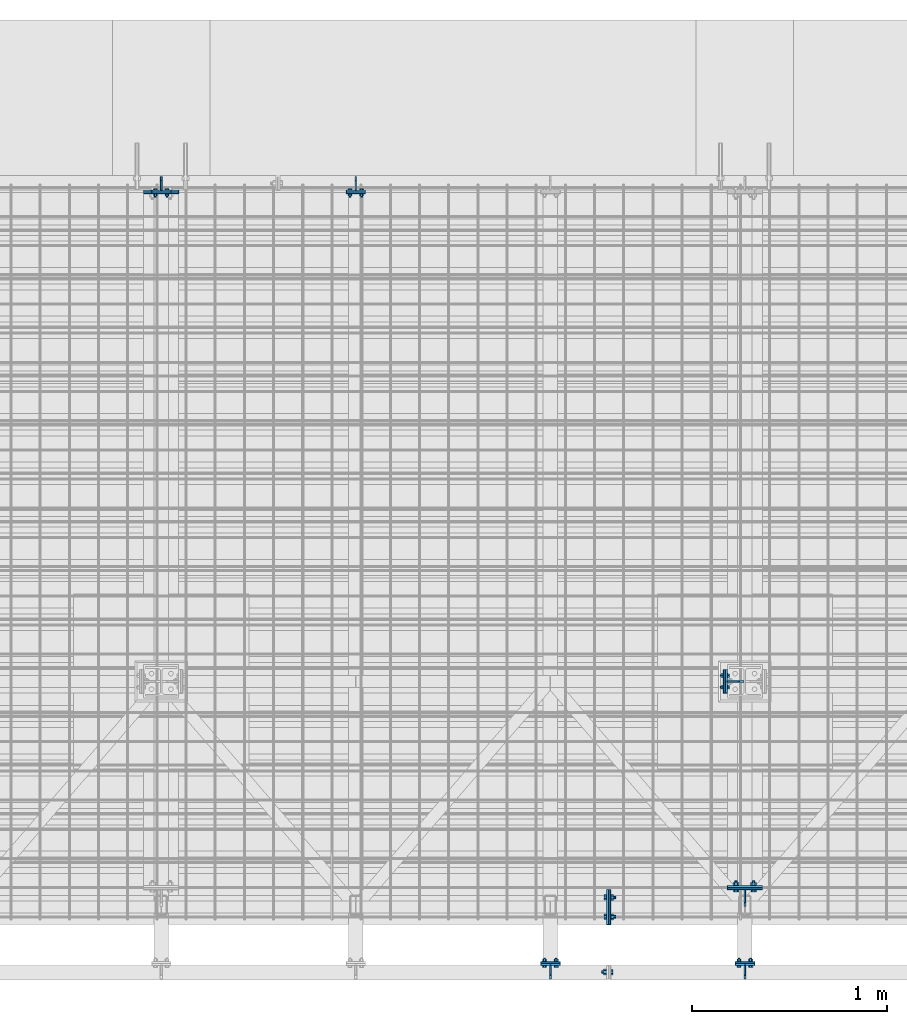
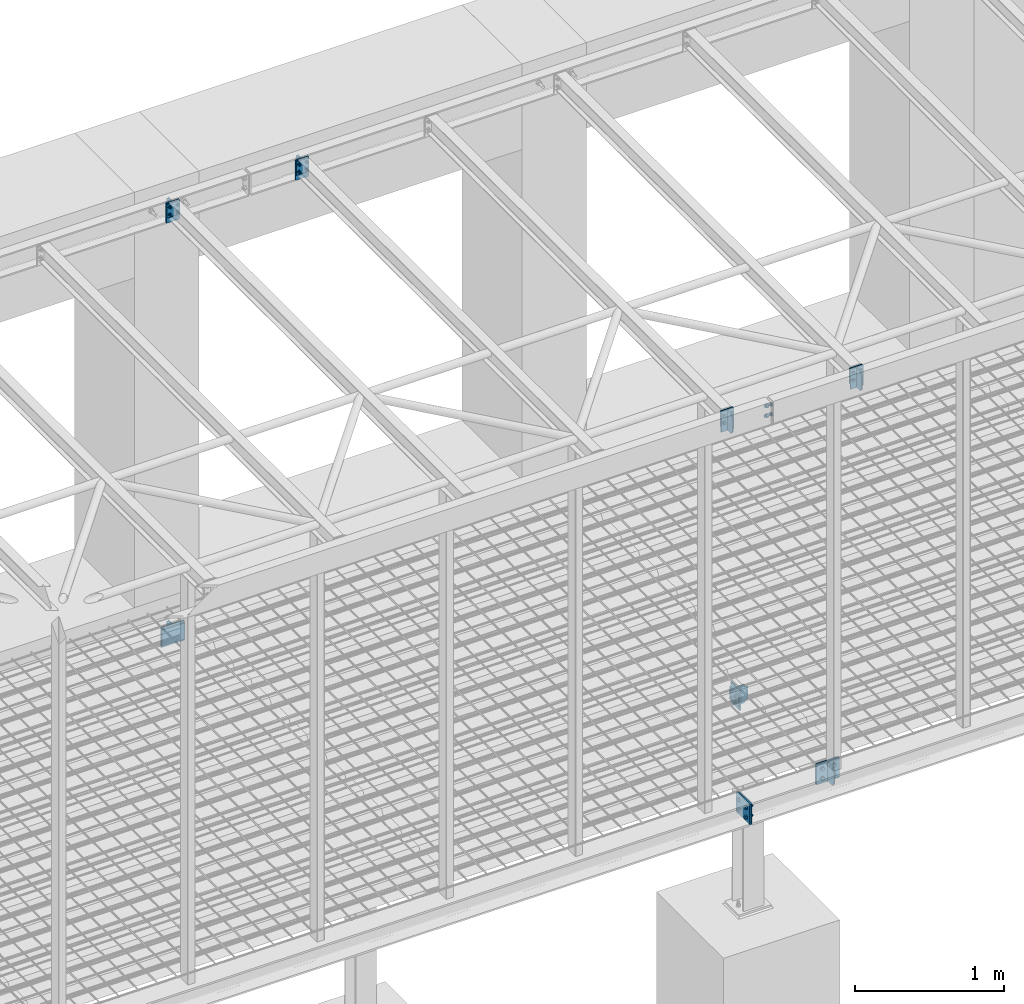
# One storey, part 20 of 26: 23 discrete accessories, 8 mechanical fasteners, 14 elements without a shape of their own.
"""IFC2X3 building model written with IfcOpenShell, lengths in millimetres."""

from ifc_helpers import new_model, si_unit, frame, frame_2d, origin_with_axes, origin_2d_with_axis, place, context, subcontext, project, spatial, polyline, circle_curve, parameter, trimmed, segment, composite_curve, circle, outline, extrude, source, transform, mapped, material, type_object, element, aggregate, save


model = new_model("IFC2X3")

# Units and contexts
model_context = context("Model", 3, precision=1e-05, world=origin_with_axes())
body_context = subcontext(model_context, "Body", "Model", "MODEL_VIEW")
ifc_project = project(units=[si_unit("LENGTHUNIT", "METRE", prefix="MILLI"), si_unit("AREAUNIT", "SQUARE_METRE"), si_unit("VOLUMEUNIT", "CUBIC_METRE"), si_unit("MASSUNIT", "GRAM", prefix="KILO"), si_unit("TIMEUNIT", "SECOND"), si_unit("PLANEANGLEUNIT", "RADIAN"), si_unit("SOLIDANGLEUNIT", "STERADIAN"), si_unit("THERMODYNAMICTEMPERATUREUNIT", "DEGREE_CELSIUS"), si_unit("LUMINOUSINTENSITYUNIT", "LUMEN")], contexts=[model_context])

# Site, building, storey
site_placement = place(None, origin_with_axes())
site = spatial("IfcSite", under=ifc_project, at=site_placement, Name="Undefined", CompositionType="ELEMENT")
building_placement = place(site_placement, origin_with_axes())
building = spatial("IfcBuilding", under=site, at=building_placement, Name="Undefined", CompositionType="ELEMENT")
storey_placement = place(building_placement, origin_with_axes())
storey = spatial("IfcBuildingStorey", under=building, at=storey_placement, Name="Undefined", CompositionType="ELEMENT", Elevation=0.0)

# Assembly, mechanical fastener
assembly_1_placement = place(storey_placement, origin_with_axes())
assembly_1 = element("IfcElementAssembly", 1, at=assembly_1_placement, inside=storey, Name="Steel Assembly", AssemblyPlace="NOTDEFINED", PredefinedType="RIGID_FRAME")
ifc_material_1 = material(Name="Undefined")
discrete_accessory_type_1 = type_object("IfcDiscreteAccessoryType", Name="Bolt assembly")
shared_shape_1 = source(origin_with_axes(), body_context, "Body", "SweptSolid", [
    extrude(circle(Radius=9.0, at=origin_2d_with_axis()), frame((0.0, -0.1, 0.0), z_axis=(0.0, 1.0, 0.0), x_axis=(1.0, 0.0, 0.0)), (0.0, 0.0, 1.0), 10.1),
    extrude(circle(Radius=9.0, at=origin_2d_with_axis()), frame((0.0, -9.9, 0.0), z_axis=(0.0, 1.0, 0.0), x_axis=(1.0, 0.0, 0.0)), (0.0, 0.0, 1.0), 10.0),
    extrude(outline(polyline([(13.85640646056, 0.0), (6.92820323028, 12.0000000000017), (-6.92820323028, 12.0000000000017), (-13.85640646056, 0.0), (-6.92820323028, -12.0000000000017), (6.92820323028, -12.0000000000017), (13.85640646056, 0.0)])), frame((0.0, -23.0, 0.0), z_axis=(0.0, 1.0, 0.0), x_axis=(1.0, 0.0, 0.0)), (0.0, 0.0, 1.0), 10.0),
    extrude(circle(Radius=8.0, at=origin_2d_with_axis()), frame((0.0, -13.0, 0.0), z_axis=(0.0, 1.0, 0.0), x_axis=(1.0, 0.0, 0.0)), (0.0, 0.0, 1.0), 50.0),
    extrude(circle(Radius=15.0, at=origin_2d_with_axis()), frame((0.0, -13.0, 0.0), z_axis=(0.0, 1.0, 0.0), x_axis=(1.0, 0.0, 0.0)), (0.0, 0.0, 1.0), 3.0),
    extrude(circle(Radius=15.0, at=origin_2d_with_axis()), frame((0.0, 10.0, 0.0), z_axis=(0.0, 1.0, 0.0), x_axis=(1.0, 0.0, 0.0)), (0.0, 0.0, 1.0), 3.0),
    extrude(outline(polyline([(15.4441197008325, 0.0), (7.72205985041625, 13.3750000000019), (-7.72205985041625, 13.3750000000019), (-15.4441197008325, 0.0), (-7.72205985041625, -13.3750000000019), (7.72205985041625, -13.3750000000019), (15.4441197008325, 0.0)])), frame((0.0, 13.0, 0.0), z_axis=(0.0, 1.0, 0.0), x_axis=(1.0, 0.0, 0.0)), (0.0, 0.0, 1.0), 13.0),
])
mechanical_fastener_1_placement = place(assembly_1_placement, frame((8350.0, -234.499999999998, 3210.0), z_axis=(0.0, 0.0, 1.0), x_axis=(0.0, 1.0, 0.0)))
mechanical_fastener_1 = element("IfcMechanicalFastener", 2, at=mechanical_fastener_1_placement, type_object=discrete_accessory_type_1, material=ifc_material_1, Name="Bolt assembly", NominalDiameter=16.0, NominalLength=50.0, context=body_context, shape_type="MappedRepresentation", body=[
    mapped(shared_shape_1, transform((0.0, 0.0, -40.0))),
    mapped(shared_shape_1, transform((0.0, 0.0, 40.0))),
])
aggregate(assembly_1, [mechanical_fastener_1])

assembly_2_placement = place(storey_placement, origin_with_axes())
assembly_2 = element("IfcElementAssembly", 3, at=assembly_2_placement, inside=storey, Name="Steel Assembly", AssemblyPlace="NOTDEFINED", PredefinedType="RIGID_FRAME")
mechanical_fastener_2_placement = place(assembly_2_placement, frame((9005.0, 200.0, -250.0), z_axis=(0.0, 0.0, 1.0), x_axis=(1.0, 0.0, 0.0)))
mechanical_fastener_2 = element("IfcMechanicalFastener", 4, at=mechanical_fastener_2_placement, type_object=discrete_accessory_type_1, material=ifc_material_1, Name="Bolt assembly", NominalDiameter=16.0, NominalLength=50.0, context=body_context, shape_type="MappedRepresentation", body=[
    mapped(shared_shape_1, transform((0.0, 0.0, -40.0))),
    mapped(shared_shape_1, transform((90.0, 0.0, -40.0))),
    mapped(shared_shape_1, transform((0.0, 0.0, 40.0))),
    mapped(shared_shape_1, transform((90.0, 0.0, 40.0))),
])

# Assembly, discrete accessory
assembly_3_placement = place(storey_placement, origin_with_axes())
assembly_3 = element("IfcElementAssembly", 5, at=assembly_3_placement, inside=storey, Name="Steel Assembly", AssemblyPlace="NOTDEFINED", PredefinedType="RIGID_FRAME")
ifc_material_2 = material(Name="STEEL/S235JR")
discrete_accessory_type_2 = type_object("IfcDiscreteAccessoryType", Name="PLECH")
discrete_accessory_1_placement = place(assembly_3_placement, frame((8345.0, 190.000000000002, -168.0), z_axis=(1.0, 0.0, 0.0), x_axis=(0.0, -1.0, 0.0)))
discrete_accessory_1 = element("IfcDiscreteAccessory", 6, at=discrete_accessory_1_placement, type_object=discrete_accessory_type_2, material=ifc_material_2, Name="PLECH", ObjectType="PL10*164", context=body_context, shape_type="SweptSolid", body=[
    extrude(outline(polyline([(0.0, 0.0), (180.0, 0.0), (180.0, 164.0), (0.0, 164.0), (0.0, 0.0)])), frame((0.0, 0.0, -5.0), z_axis=(0.0, 0.0, 1.0), x_axis=(1.0, 0.0, 0.0)), (0.0, 0.0, 1.0), 10.0),
])
aggregate(assembly_3, [discrete_accessory_1])

# Discrete accessory
discrete_accessory_2_placement = place(assembly_2_placement, frame((8355.0, 190.000000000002, -168.0), z_axis=(1.0, 0.0, 0.0), x_axis=(0.0, -1.0, 0.0)))
discrete_accessory_2 = element("IfcDiscreteAccessory", 7, at=discrete_accessory_2_placement, type_object=discrete_accessory_type_2, material=ifc_material_2, Name="PLECH", ObjectType="PL10*164", context=body_context, shape_type="SweptSolid", body=[
    extrude(outline(polyline([(0.0, 0.0), (180.0, 0.0), (180.0, 164.0), (0.0, 164.0), (0.0, 0.0)])), frame((0.0, 0.0, -5.0), z_axis=(0.0, 0.0, 1.0), x_axis=(1.0, 0.0, 0.0)), (0.0, 0.0, 1.0), 10.0),
])

# Assembly, discrete accessory
assembly_4_placement = place(storey_placement, origin_with_axes())
assembly_4 = element("IfcElementAssembly", 8, at=assembly_4_placement, inside=storey, Name="Steel Assembly", AssemblyPlace="NOTDEFINED", PredefinedType="RIGID_FRAME")
discrete_accessory_3_placement = place(assembly_4_placement, frame((9050.0, -200.0, 3289.5), z_axis=(1.0, 0.0, 0.0), x_axis=(0.0, -1.0, 0.0)))
discrete_accessory_3 = element("IfcDiscreteAccessory", 9, at=discrete_accessory_3_placement, type_object=discrete_accessory_type_2, material=ifc_material_2, Name="PLECH", ObjectType="PL8*70", context=body_context, shape_type="SweptSolid", body=[
    extrude(outline(composite_curve([segment(polyline([(0.0, 0.0), (49.5, 0.0)]), True, "CONTINUOUS"), segment(trimmed(circle_curve(frame_2d((69.5, 0.0), x_axis=(-1.0, 0.0)), 20.0), [parameter(0.0)], [parameter(4.71238898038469)], False, "PARAMETER"), True, "CONTINUOUS"), segment(polyline([(69.5, 20.0), (69.5, 139.0)]), True, "CONTINUOUS"), segment(trimmed(circle_curve(frame_2d((69.5, 159.0), x_axis=(0.0, -1.0)), 20.0), [parameter(0.0)], [parameter(4.71238898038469)], False, "PARAMETER"), True, "CONTINUOUS"), segment(polyline([(49.5, 159.0), (-3.63797880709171e-12, 159.0), (0.0, 0.0)]), True, "DISCONTINUOUS")], self_intersect=False)), frame((0.0, 0.0, -4.0), z_axis=(0.0, 0.0, 1.0), x_axis=(1.0, 0.0, 0.0)), (0.0, 0.0, 1.0), 8.0),
])

assembly_5_placement = place(storey_placement, origin_with_axes())
assembly_5 = element("IfcElementAssembly", 10, at=assembly_5_placement, inside=storey, Name="Steel Assembly", AssemblyPlace="NOTDEFINED", PredefinedType="RIGID_FRAME")
discrete_accessory_4_placement = place(assembly_5_placement, frame((9000.0, -185.0, 3166.5), z_axis=(0.0, 1.0, 0.0), x_axis=(0.0, 0.0, 1.0)))
discrete_accessory_4 = element("IfcDiscreteAccessory", 11, at=discrete_accessory_4_placement, type_object=discrete_accessory_type_2, material=ifc_material_2, Name="PLECH", ObjectType="PL10*100", context=body_context, shape_type="SweptSolid", body=[
    extrude(outline(polyline([(0.0, 0.0), (127.0, 0.0), (127.0, 100.0), (-9.09494701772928e-13, 100.0), (0.0, 0.0)])), frame((0.0, 0.0, -5.0), z_axis=(0.0, 0.0, 1.0), x_axis=(1.0, 0.0, 0.0)), (0.0, 0.0, 1.0), 10.0),
])
aggregate(assembly_5, [discrete_accessory_4])

# Discrete accessory
discrete_accessory_5_placement = place(assembly_4_placement, frame((9000.0, -195.0, 3127.5), z_axis=(0.0, 1.0, 0.0), x_axis=(0.0, 0.0, 1.0)))
discrete_accessory_5 = element("IfcDiscreteAccessory", 12, at=discrete_accessory_5_placement, type_object=discrete_accessory_type_2, material=ifc_material_2, Name="PLECH", ObjectType="PL10*100", context=body_context, shape_type="SweptSolid", body=[
    extrude(outline(polyline([(0.0, 0.0), (166.000015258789, 0.0), (166.000015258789, 100.0), (-9.09494701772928e-13, 100.0), (0.0, 0.0)])), frame((0.0, 0.0, -5.0), z_axis=(0.0, 0.0, 1.0), x_axis=(1.0, 0.0, 0.0)), (0.0, 0.0, 1.0), 10.0),
])

discrete_accessory_6_placement = place(assembly_4_placement, frame((8050.0, -200.0, 3289.5), z_axis=(1.0, 0.0, 0.0), x_axis=(0.0, -1.0, 0.0)))
discrete_accessory_6 = element("IfcDiscreteAccessory", 13, at=discrete_accessory_6_placement, type_object=discrete_accessory_type_2, material=ifc_material_2, Name="PLECH", ObjectType="PL8*70", context=body_context, shape_type="SweptSolid", body=[
    extrude(outline(composite_curve([segment(polyline([(0.0, 0.0), (49.5, 0.0)]), True, "CONTINUOUS"), segment(trimmed(circle_curve(frame_2d((69.5, 0.0), x_axis=(-1.0, 0.0)), 20.0), [parameter(0.0)], [parameter(4.71238898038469)], False, "PARAMETER"), True, "CONTINUOUS"), segment(polyline([(69.5, 20.0), (69.5, 139.0)]), True, "CONTINUOUS"), segment(trimmed(circle_curve(frame_2d((69.5, 159.0), x_axis=(0.0, -1.0)), 20.0), [parameter(0.0)], [parameter(4.71238898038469)], False, "PARAMETER"), True, "CONTINUOUS"), segment(polyline([(49.5, 159.0), (-3.63797880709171e-12, 159.0), (0.0, 0.0)]), True, "DISCONTINUOUS")], self_intersect=False)), frame((0.0, 0.0, -4.0), z_axis=(0.0, 0.0, 1.0), x_axis=(1.0, 0.0, 0.0)), (0.0, 0.0, 1.0), 8.0),
])

# Assembly, discrete accessory
assembly_6_placement = place(storey_placement, origin_with_axes())
assembly_6 = element("IfcElementAssembly", 14, at=assembly_6_placement, inside=storey, Name="Steel Assembly", AssemblyPlace="NOTDEFINED", PredefinedType="RIGID_FRAME")
discrete_accessory_7_placement = place(assembly_6_placement, frame((8000.0, -185.0, 3166.5), z_axis=(0.0, 1.0, 0.0), x_axis=(0.0, 0.0, 1.0)))
discrete_accessory_7 = element("IfcDiscreteAccessory", 15, at=discrete_accessory_7_placement, type_object=discrete_accessory_type_2, material=ifc_material_2, Name="PLECH", ObjectType="PL10*100", context=body_context, shape_type="SweptSolid", body=[
    extrude(outline(polyline([(0.0, 0.0), (127.0, 0.0), (127.0, 100.0), (-9.09494701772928e-13, 100.0), (0.0, 0.0)])), frame((0.0, 0.0, -5.0), z_axis=(0.0, 0.0, 1.0), x_axis=(1.0, 0.0, 0.0)), (0.0, 0.0, 1.0), 10.0),
])
aggregate(assembly_6, [discrete_accessory_7])

# Discrete accessory
discrete_accessory_8_placement = place(assembly_4_placement, frame((8000.0, -195.0, 3127.5), z_axis=(0.0, 1.0, 0.0), x_axis=(0.0, 0.0, 1.0)))
discrete_accessory_8 = element("IfcDiscreteAccessory", 16, at=discrete_accessory_8_placement, type_object=discrete_accessory_type_2, material=ifc_material_2, Name="PLECH", ObjectType="PL10*100", context=body_context, shape_type="SweptSolid", body=[
    extrude(outline(polyline([(0.0, 0.0), (166.000015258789, 0.0), (166.000015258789, 100.0), (-9.09494701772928e-13, 100.0), (0.0, 0.0)])), frame((0.0, 0.0, -5.0), z_axis=(0.0, 0.0, 1.0), x_axis=(1.0, 0.0, 0.0)), (0.0, 0.0, 1.0), 10.0),
])

discrete_accessory_9_placement = place(assembly_2_placement, frame((8960.0, 195.0, -168.0), z_axis=(0.0, 1.0, 0.0), x_axis=(1.0, 0.0, 0.0)))
discrete_accessory_9 = element("IfcDiscreteAccessory", 17, at=discrete_accessory_9_placement, type_object=discrete_accessory_type_2, material=ifc_material_2, Name="PLECH", ObjectType="PL10*164", context=body_context, shape_type="SweptSolid", body=[
    extrude(outline(polyline([(0.0, 0.0), (180.0, 0.0), (180.0, 164.0), (0.0, 164.0), (0.0, 0.0)])), frame((0.0, 0.0, -5.0), z_axis=(0.0, 0.0, 1.0), x_axis=(1.0, 0.0, 0.0)), (0.0, 0.0, 1.0), 10.0),
])

discrete_accessory_10_placement = place(assembly_2_placement, frame((9050.0, 190.0, -174.0), z_axis=(1.0, 0.0, 0.0), x_axis=(0.0, -1.0, 0.0)))
discrete_accessory_10 = element("IfcDiscreteAccessory", 18, at=discrete_accessory_10_placement, type_object=discrete_accessory_type_2, material=ifc_material_2, Name="PLECH", ObjectType="PL8*86", context=body_context, shape_type="SweptSolid", body=[
    extrude(outline(composite_curve([segment(polyline([(0.0, 0.0), (65.75, 0.0)]), True, "CONTINUOUS"), segment(trimmed(circle_curve(frame_2d((85.75, 0.0), x_axis=(-1.0, 0.0)), 20.0), [parameter(0.0)], [parameter(4.71238898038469)], False, "PARAMETER"), True, "CONTINUOUS"), segment(polyline([(85.75, 20.0), (85.75, 132.0)]), True, "CONTINUOUS"), segment(trimmed(circle_curve(frame_2d((85.75, 152.0), x_axis=(0.0, -1.0)), 20.0), [parameter(0.0)], [parameter(4.71238898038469)], False, "PARAMETER"), True, "CONTINUOUS"), segment(polyline([(65.75, 152.0), (0.0, 152.0), (0.0, 0.0)]), True, "DISCONTINUOUS")], self_intersect=False)), frame((0.0, 0.0, -4.0), z_axis=(0.0, 0.0, 1.0), x_axis=(1.0, 0.0, 0.0)), (0.0, 0.0, 1.0), 8.0),
])

# Assembly, discrete accessories
assembly_7_placement = place(storey_placement, origin_with_axes())
assembly_7 = element("IfcElementAssembly", 19, at=assembly_7_placement, inside=storey, Name="Steel Assembly", AssemblyPlace="NOTDEFINED", PredefinedType="RIGID_FRAME")
discrete_accessory_11_placement = place(assembly_7_placement, frame((8960.0, 205.0, -168.0), z_axis=(0.0, 1.0, 0.0), x_axis=(1.0, 0.0, 0.0)))
discrete_accessory_11 = element("IfcDiscreteAccessory", 20, at=discrete_accessory_11_placement, type_object=discrete_accessory_type_2, material=ifc_material_2, Name="PLECH", ObjectType="PL10*164", context=body_context, shape_type="SweptSolid", body=[
    extrude(outline(polyline([(0.0, 0.0), (180.0, 0.0), (180.0, 164.0), (0.0, 164.0), (0.0, 0.0)])), frame((0.0, 0.0, -5.0), z_axis=(0.0, 0.0, 1.0), x_axis=(1.0, 0.0, 0.0)), (0.0, 0.0, 1.0), 10.0),
])
discrete_accessory_12_placement = place(assembly_7_placement, frame((8960.0, 1260.0, -174.0), z_axis=(0.0, 1.0, 0.0), x_axis=(1.0, 0.0, 0.0)))
discrete_accessory_12 = element("IfcDiscreteAccessory", 21, at=discrete_accessory_12_placement, type_object=discrete_accessory_type_2, material=ifc_material_2, Name="PLECH", ObjectType="PL8*86", context=body_context, shape_type="SweptSolid", body=[
    extrude(outline(composite_curve([segment(polyline([(0.0, 0.0), (60.5, 0.0)]), True, "CONTINUOUS"), segment(trimmed(circle_curve(frame_2d((85.5, 0.0), x_axis=(-1.0, 0.0)), 25.0), [parameter(0.0)], [parameter(4.71238898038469)], False, "PARAMETER"), True, "CONTINUOUS"), segment(polyline([(85.5, 25.0), (85.5, 127.0)]), True, "CONTINUOUS"), segment(trimmed(circle_curve(frame_2d((85.5, 152.0), x_axis=(0.0, -1.0)), 25.0), [parameter(0.0)], [parameter(4.71238898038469)], False, "PARAMETER"), True, "CONTINUOUS"), segment(polyline([(60.5, 152.0), (0.0, 152.0), (0.0, 0.0)]), True, "DISCONTINUOUS")], self_intersect=False)), frame((0.0, 0.0, -4.0), z_axis=(0.0, 0.0, 1.0), x_axis=(1.0, 0.0, 0.0)), (0.0, 0.0, 1.0), 8.0),
])

# Assembly, discrete accessory
assembly_8_placement = place(storey_placement, origin_with_axes())
assembly_8 = element("IfcElementAssembly", 22, at=assembly_8_placement, inside=storey, Name="Steel Assembly", AssemblyPlace="NOTDEFINED", PredefinedType="RIGID_FRAME")
discrete_accessory_13_placement = place(assembly_8_placement, frame((8945.0, 1200.0, -299.0), z_axis=(-1.0, 0.0, 0.0), x_axis=(0.0, 0.0, 1.0)))
discrete_accessory_13 = element("IfcDiscreteAccessory", 23, at=discrete_accessory_13_placement, type_object=discrete_accessory_type_2, material=ifc_material_2, Name="PLECH", ObjectType="PL10*98", context=body_context, shape_type="SweptSolid", body=[
    extrude(outline(polyline([(0.0, 0.0), (98.0, 4.54747350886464e-13), (98.0, 120.0), (0.0, 120.0), (0.0, 0.0)])), frame((0.0, 0.0, -5.0), z_axis=(0.0, 0.0, 1.0), x_axis=(1.0, 0.0, 0.0)), (0.0, 0.0, 1.0), 10.0),
])
aggregate(assembly_8, [discrete_accessory_13])

# Discrete accessory
discrete_accessory_14_placement = place(assembly_7_placement, frame((8955.0, 1200.0, -332.0), z_axis=(-1.0, 0.0, 0.0), x_axis=(0.0, 0.0, 1.0)))
discrete_accessory_14 = element("IfcDiscreteAccessory", 24, at=discrete_accessory_14_placement, type_object=discrete_accessory_type_2, material=ifc_material_2, Name="PLECH", ObjectType="PL10*120", context=body_context, shape_type="SweptSolid", body=[
    extrude(outline(polyline([(0.0, 0.0), (164.0, 4.54747350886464e-13), (164.0, 120.0), (0.0, 120.0), (0.0, 0.0)])), frame((0.0, 0.0, -5.0), z_axis=(0.0, 0.0, 1.0), x_axis=(1.0, 0.0, 0.0)), (0.0, 0.0, 1.0), 10.0),
])

# Assembly, discrete accessories
assembly_9_placement = place(storey_placement, origin_with_axes())
assembly_9 = element("IfcElementAssembly", 25, at=assembly_9_placement, inside=storey, Name="Steel Assembly", AssemblyPlace="NOTDEFINED", PredefinedType="RIGID_FRAME")
discrete_accessory_15_placement = place(assembly_9_placement, frame((5960.0, 3780.0, -168.0), z_axis=(0.0, 1.0, 0.0), x_axis=(1.0, 0.0, 0.0)))
discrete_accessory_15 = element("IfcDiscreteAccessory", 26, at=discrete_accessory_15_placement, type_object=discrete_accessory_type_2, material=ifc_material_2, Name="PLECH", ObjectType="PL10*164", context=body_context, shape_type="SweptSolid", body=[
    extrude(outline(polyline([(0.0, 0.0), (180.0, 0.0), (180.0, 164.0), (0.0, 164.0), (0.0, 0.0)])), frame((0.0, 0.0, -5.0), z_axis=(0.0, 0.0, 1.0), x_axis=(1.0, 0.0, 0.0)), (0.0, 0.0, 1.0), 10.0),
])
discrete_accessory_16_placement = place(assembly_9_placement, frame((6050.0, 3785.0, -170.5), z_axis=(-1.0, 0.0, 0.0), x_axis=(0.0, 1.0, 0.0)))
discrete_accessory_16 = element("IfcDiscreteAccessory", 27, at=discrete_accessory_16_placement, type_object=discrete_accessory_type_2, material=ifc_material_2, Name="PLECH", ObjectType="PL8*70", context=body_context, shape_type="SweptSolid", body=[
    extrude(outline(composite_curve([segment(polyline([(0.0, 0.0), (49.5, 0.0)]), True, "CONTINUOUS"), segment(trimmed(circle_curve(frame_2d((69.5, 0.0), x_axis=(-1.0, 0.0)), 20.0), [parameter(0.0)], [parameter(4.71238898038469)], False, "PARAMETER"), True, "CONTINUOUS"), segment(polyline([(69.5, 20.0), (69.5, 139.0)]), True, "CONTINUOUS"), segment(trimmed(circle_curve(frame_2d((69.5, 159.0), x_axis=(0.0, -1.0)), 20.0), [parameter(0.0)], [parameter(4.71238898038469)], False, "PARAMETER"), True, "CONTINUOUS"), segment(polyline([(49.5, 159.0), (-3.63797880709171e-12, 159.0), (0.0, 0.0)]), True, "DISCONTINUOUS")], self_intersect=False)), frame((0.0, 0.0, -4.0), z_axis=(0.0, 0.0, 1.0), x_axis=(1.0, 0.0, 0.0)), (0.0, 0.0, 1.0), 8.0),
])
aggregate(assembly_9, [discrete_accessory_15, discrete_accessory_16])

# Assembly, discrete accessory
assembly_10_placement = place(storey_placement, origin_with_axes())
assembly_10 = element("IfcElementAssembly", 28, at=assembly_10_placement, inside=storey, Name="Steel Assembly", AssemblyPlace="NOTDEFINED", PredefinedType="RIGID_FRAME")
discrete_accessory_17_placement = place(assembly_10_placement, frame((5960.0, 3771.0, -184.0), z_axis=(0.0, 1.0, 0.0), x_axis=(1.0, 0.0, 0.0)))
discrete_accessory_17 = element("IfcDiscreteAccessory", 29, at=discrete_accessory_17_placement, type_object=discrete_accessory_type_2, material=ifc_material_2, Name="PLECH", ObjectType="PL8*132", context=body_context, shape_type="SweptSolid", body=[
    extrude(outline(polyline([(0.0, 0.0), (180.0, 0.0), (180.0, 132.0), (0.0, 132.0), (0.0, 0.0)])), frame((0.0, 0.0, -4.0), z_axis=(0.0, 0.0, 1.0), x_axis=(1.0, 0.0, 0.0)), (0.0, 0.0, 1.0), 8.0),
])
aggregate(assembly_10, [discrete_accessory_17])

assembly_11_placement = place(storey_placement, origin_with_axes())
assembly_11 = element("IfcElementAssembly", 30, at=assembly_11_placement, inside=storey, Name="Steel Assembly", AssemblyPlace="NOTDEFINED", PredefinedType="RIGID_FRAME")
discrete_accessory_18_placement = place(assembly_11_placement, frame((7050.0, 3785.0, 3289.5), z_axis=(-1.0, 0.0, 0.0), x_axis=(0.0, 1.0, 0.0)))
discrete_accessory_18 = element("IfcDiscreteAccessory", 31, at=discrete_accessory_18_placement, type_object=discrete_accessory_type_2, material=ifc_material_2, Name="PLECH", ObjectType="PL6*70", context=body_context, shape_type="SweptSolid", body=[
    extrude(outline(composite_curve([segment(polyline([(0.0, 0.0), (49.5, 0.0)]), True, "CONTINUOUS"), segment(trimmed(circle_curve(frame_2d((69.5, 0.0), x_axis=(-1.0, 0.0)), 20.0), [parameter(0.0)], [parameter(4.71238898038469)], False, "PARAMETER"), True, "CONTINUOUS"), segment(polyline([(69.5, 20.0), (69.5, 139.0)]), True, "CONTINUOUS"), segment(trimmed(circle_curve(frame_2d((69.5, 159.0), x_axis=(0.0, -1.0)), 20.0), [parameter(0.0)], [parameter(4.71238898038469)], False, "PARAMETER"), True, "CONTINUOUS"), segment(polyline([(49.5, 159.0), (-3.63797880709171e-12, 159.0), (0.0, 0.0)]), True, "DISCONTINUOUS")], self_intersect=False)), frame((0.0, 0.0, -3.0), z_axis=(0.0, 0.0, 1.0), x_axis=(1.0, 0.0, 0.0)), (0.0, 0.0, 1.0), 6.0),
])

assembly_12_placement = place(storey_placement, origin_with_axes())
assembly_12 = element("IfcElementAssembly", 32, at=assembly_12_placement, inside=storey, Name="Steel Assembly", AssemblyPlace="NOTDEFINED", PredefinedType="RIGID_FRAME")
discrete_accessory_19_placement = place(assembly_12_placement, frame((7000.0, 3771.0, 3175.0), z_axis=(0.0, 1.0, 0.0), x_axis=(0.0, 0.0, 1.0)))
discrete_accessory_19 = element("IfcDiscreteAccessory", 33, at=discrete_accessory_19_placement, type_object=discrete_accessory_type_2, material=ifc_material_2, Name="PLECH", ObjectType="PL8*100", context=body_context, shape_type="SweptSolid", body=[
    extrude(outline(polyline([(0.0, 0.0), (110.0, 0.0), (110.0, 100.0), (-9.09494701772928e-13, 100.0), (0.0, 0.0)])), frame((0.0, 0.0, -4.0), z_axis=(0.0, 0.0, 1.0), x_axis=(1.0, 0.0, 0.0)), (0.0, 0.0, 1.0), 8.0),
])
aggregate(assembly_12, [discrete_accessory_19])

# Discrete accessory
discrete_accessory_20_placement = place(assembly_11_placement, frame((7000.0, 3780.0, 3128.0), z_axis=(0.0, 1.0, 0.0), x_axis=(0.0, 0.0, 1.0)))
discrete_accessory_20 = element("IfcDiscreteAccessory", 34, at=discrete_accessory_20_placement, type_object=discrete_accessory_type_2, material=ifc_material_2, Name="PLECH", ObjectType="PL10*100", context=body_context, shape_type="SweptSolid", body=[
    extrude(outline(polyline([(0.0, 0.0), (164.0, 4.54747350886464e-13), (164.0, 100.0), (-9.09494701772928e-13, 100.0), (0.0, 0.0)])), frame((0.0, 0.0, -5.0), z_axis=(0.0, 0.0, 1.0), x_axis=(1.0, 0.0, 0.0)), (0.0, 0.0, 1.0), 10.0),
])

# Assembly, discrete accessory
assembly_13_placement = place(storey_placement, origin_with_axes())
assembly_13 = element("IfcElementAssembly", 35, at=assembly_13_placement, inside=storey, Name="Steel Assembly", AssemblyPlace="NOTDEFINED", PredefinedType="RIGID_FRAME")
discrete_accessory_21_placement = place(assembly_13_placement, frame((6050.0, 3785.0, 3289.5), z_axis=(-1.0, 0.0, 0.0), x_axis=(0.0, 1.0, 0.0)))
discrete_accessory_21 = element("IfcDiscreteAccessory", 36, at=discrete_accessory_21_placement, type_object=discrete_accessory_type_2, material=ifc_material_2, Name="PLECH", ObjectType="PL6*70", context=body_context, shape_type="SweptSolid", body=[
    extrude(outline(composite_curve([segment(polyline([(0.0, 0.0), (49.5, 0.0)]), True, "CONTINUOUS"), segment(trimmed(circle_curve(frame_2d((69.5, 0.0), x_axis=(-1.0, 0.0)), 20.0), [parameter(0.0)], [parameter(4.71238898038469)], False, "PARAMETER"), True, "CONTINUOUS"), segment(polyline([(69.5, 20.0), (69.5, 139.0)]), True, "CONTINUOUS"), segment(trimmed(circle_curve(frame_2d((69.5, 159.0), x_axis=(0.0, -1.0)), 20.0), [parameter(0.0)], [parameter(4.71238898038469)], False, "PARAMETER"), True, "CONTINUOUS"), segment(polyline([(49.5, 159.0), (-3.63797880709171e-12, 159.0), (0.0, 0.0)]), True, "DISCONTINUOUS")], self_intersect=False)), frame((0.0, 0.0, -3.0), z_axis=(0.0, 0.0, 1.0), x_axis=(1.0, 0.0, 0.0)), (0.0, 0.0, 1.0), 6.0),
])

assembly_14_placement = place(storey_placement, origin_with_axes())
assembly_14 = element("IfcElementAssembly", 37, at=assembly_14_placement, inside=storey, Name="Steel Assembly", AssemblyPlace="NOTDEFINED", PredefinedType="RIGID_FRAME")
discrete_accessory_22_placement = place(assembly_14_placement, frame((6000.0, 3771.0, 3175.0), z_axis=(0.0, 1.0, 0.0), x_axis=(0.0, 0.0, 1.0)))
discrete_accessory_22 = element("IfcDiscreteAccessory", 38, at=discrete_accessory_22_placement, type_object=discrete_accessory_type_2, material=ifc_material_2, Name="PLECH", ObjectType="PL8*100", context=body_context, shape_type="SweptSolid", body=[
    extrude(outline(polyline([(0.0, 0.0), (110.0, 0.0), (110.0, 100.0), (-9.09494701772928e-13, 100.0), (0.0, 0.0)])), frame((0.0, 0.0, -4.0), z_axis=(0.0, 0.0, 1.0), x_axis=(1.0, 0.0, 0.0)), (0.0, 0.0, 1.0), 8.0),
])
aggregate(assembly_14, [discrete_accessory_22])

# Discrete accessory
discrete_accessory_23_placement = place(assembly_13_placement, frame((6000.0, 3780.0, 3128.0), z_axis=(0.0, 1.0, 0.0), x_axis=(0.0, 0.0, 1.0)))
discrete_accessory_23 = element("IfcDiscreteAccessory", 39, at=discrete_accessory_23_placement, type_object=discrete_accessory_type_2, material=ifc_material_2, Name="PLECH", ObjectType="PL10*100", context=body_context, shape_type="SweptSolid", body=[
    extrude(outline(polyline([(0.0, 0.0), (164.0, 4.54747350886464e-13), (164.0, 100.0), (-9.09494701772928e-13, 100.0), (0.0, 0.0)])), frame((0.0, 0.0, -5.0), z_axis=(0.0, 0.0, 1.0), x_axis=(1.0, 0.0, 0.0)), (0.0, 0.0, 1.0), 10.0),
])

# Mechanical fastener
shared_shape_2 = source(origin_with_axes(), body_context, "Body", "SweptSolid", [
    extrude(circle(Radius=9.0, at=origin_2d_with_axis()), frame((0.0, -9.9, 0.0), z_axis=(0.0, 1.0, 0.0), x_axis=(1.0, 0.0, 0.0)), (0.0, 0.0, 1.0), 10.0),
    extrude(circle(Radius=9.0, at=origin_2d_with_axis()), frame((0.0, -0.1, 0.0), z_axis=(0.0, 1.0, 0.0), x_axis=(1.0, 0.0, 0.0)), (0.0, 0.0, 1.0), 10.1),
    extrude(outline(polyline([(13.85640646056, 0.0), (6.92820323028, 12.0000000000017), (-6.92820323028, 12.0000000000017), (-13.85640646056, 0.0), (-6.92820323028, -12.0000000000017), (6.92820323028, -12.0000000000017), (13.85640646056, 0.0)])), frame((0.0, -23.0, 0.0), z_axis=(0.0, 1.0, 0.0), x_axis=(1.0, 0.0, 0.0)), (0.0, 0.0, 1.0), 10.0),
    extrude(circle(Radius=8.0, at=origin_2d_with_axis()), frame((0.0, -13.0, 0.0), z_axis=(0.0, 1.0, 0.0), x_axis=(1.0, 0.0, 0.0)), (0.0, 0.0, 1.0), 50.0),
    extrude(circle(Radius=15.0, at=origin_2d_with_axis()), frame((0.0, -13.0, 0.0), z_axis=(0.0, 1.0, 0.0), x_axis=(1.0, 0.0, 0.0)), (0.0, 0.0, 1.0), 3.0),
    extrude(circle(Radius=15.0, at=origin_2d_with_axis()), frame((0.0, 10.0, 0.0), z_axis=(0.0, 1.0, 0.0), x_axis=(1.0, 0.0, 0.0)), (0.0, 0.0, 1.0), 3.0),
    extrude(outline(polyline([(15.4441197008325, 0.0), (7.72205985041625, 13.3750000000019), (-7.72205985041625, 13.3750000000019), (-15.4441197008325, 0.0), (-7.72205985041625, -13.3750000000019), (7.72205985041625, -13.3750000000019), (15.4441197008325, 0.0)])), frame((0.0, 13.0, 0.0), z_axis=(0.0, 1.0, 0.0), x_axis=(1.0, 0.0, 0.0)), (0.0, 0.0, 1.0), 13.0),
])
mechanical_fastener_3_placement = place(assembly_2_placement, frame((8350.0, 150.0, -250.0), z_axis=(0.0, 0.0, 1.0), x_axis=(0.0, -1.0, 0.0)))
mechanical_fastener_3 = element("IfcMechanicalFastener", 40, at=mechanical_fastener_3_placement, type_object=discrete_accessory_type_1, material=ifc_material_1, Name="Bolt assembly", NominalDiameter=16.0, NominalLength=50.0, context=body_context, shape_type="MappedRepresentation", body=[
    mapped(shared_shape_2, transform((0.0, 0.0, -40.0))),
    mapped(shared_shape_2, transform((100.0, 0.0, -40.0))),
    mapped(shared_shape_2, transform((0.0, 0.0, 40.0))),
    mapped(shared_shape_2, transform((100.0, 0.0, 40.0))),
])

aggregate(assembly_2, [mechanical_fastener_3, discrete_accessory_2, mechanical_fastener_2, discrete_accessory_9, discrete_accessory_10])

shared_shape_3 = source(origin_with_axes(), body_context, "Body", "SweptSolid", [
    extrude(circle(Radius=6.5, at=origin_2d_with_axis()), frame((0.0, -0.1, 0.0), z_axis=(0.0, 1.0, 0.0), x_axis=(1.0, 0.0, 0.0)), (0.0, 0.0, 1.0), 10.1),
    extrude(circle(Radius=6.5, at=origin_2d_with_axis()), frame((0.0, -9.9, 0.0), z_axis=(0.0, 1.0, 0.0), x_axis=(1.0, 0.0, 0.0)), (0.0, 0.0, 1.0), 10.0),
    extrude(outline(polyline([(10.96965511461, 0.0), (5.484827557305, 9.50000000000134), (-5.484827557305, 9.50000000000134), (-10.96965511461, 0.0), (-5.484827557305, -9.50000000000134), (5.484827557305, -9.50000000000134), (10.96965511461, 0.0)])), frame((0.0, -20.0, 0.0), z_axis=(0.0, 1.0, 0.0), x_axis=(1.0, 0.0, 0.0)), (0.0, 0.0, 1.0), 7.5),
    extrude(circle(Radius=6.0, at=origin_2d_with_axis()), frame((0.0, -12.5, 0.0), z_axis=(0.0, 1.0, 0.0), x_axis=(1.0, 0.0, 0.0)), (0.0, 0.0, 1.0), 40.0),
    extrude(circle(Radius=12.0, at=origin_2d_with_axis()), frame((0.0, -12.5, 0.0), z_axis=(0.0, 1.0, 0.0), x_axis=(1.0, 0.0, 0.0)), (0.0, 0.0, 1.0), 2.5),
    extrude(circle(Radius=12.0, at=origin_2d_with_axis()), frame((0.0, 10.0, 0.0), z_axis=(0.0, 1.0, 0.0), x_axis=(1.0, 0.0, 0.0)), (0.0, 0.0, 1.0), 2.5),
    extrude(outline(polyline([(10.96965511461, 0.0), (5.484827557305, 9.50000000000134), (-5.484827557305, 9.50000000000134), (-10.96965511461, 0.0), (-5.484827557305, -9.50000000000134), (5.484827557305, -9.50000000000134), (10.96965511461, 0.0)])), frame((0.0, 12.5, 0.0), z_axis=(0.0, 1.0, 0.0), x_axis=(1.0, 0.0, 0.0)), (0.0, 0.0, 1.0), 10.0),
])
mechanical_fastener_4_placement = place(assembly_4_placement, frame((9020.0, -190.0, 3230.0), z_axis=(0.0, 0.0, 1.0), x_axis=(1.0, 0.0, 0.0)))
mechanical_fastener_4 = element("IfcMechanicalFastener", 41, at=mechanical_fastener_4_placement, type_object=discrete_accessory_type_1, material=ifc_material_1, Name="Bolt assembly", NominalDiameter=12.0, NominalLength=40.0, context=body_context, shape_type="MappedRepresentation", body=[
    mapped(shared_shape_3, transform((0.0, 0.0, 30.0))),
    mapped(shared_shape_3, transform((60.0, 0.0, 30.0))),
    mapped(shared_shape_3, transform((0.0, 0.0, -30.0))),
    mapped(shared_shape_3, transform((60.0, 0.0, -30.0))),
])

mechanical_fastener_5_placement = place(assembly_4_placement, frame((8020.0, -190.0, 3230.0), z_axis=(0.0, 0.0, 1.0), x_axis=(1.0, 0.0, 0.0)))
mechanical_fastener_5 = element("IfcMechanicalFastener", 42, at=mechanical_fastener_5_placement, type_object=discrete_accessory_type_1, material=ifc_material_1, Name="Bolt assembly", NominalDiameter=12.0, NominalLength=40.0, context=body_context, shape_type="MappedRepresentation", body=[
    mapped(shared_shape_3, transform((0.0, 0.0, 30.0))),
    mapped(shared_shape_3, transform((60.0, 0.0, 30.0))),
    mapped(shared_shape_3, transform((0.0, 0.0, -30.0))),
    mapped(shared_shape_3, transform((60.0, 0.0, -30.0))),
])

aggregate(assembly_4, [mechanical_fastener_4, discrete_accessory_3, discrete_accessory_5, mechanical_fastener_5, discrete_accessory_6, discrete_accessory_8])

shared_shape_4 = source(origin_with_axes(), body_context, "Body", "SweptSolid", [
    extrude(circle(Radius=6.5, at=origin_2d_with_axis()), frame((0.0, -4.1, 0.0), z_axis=(0.0, 1.0, 0.0), x_axis=(1.0, 0.0, 0.0)), (0.0, 0.0, 1.0), 10.1),
    extrude(circle(Radius=6.5, at=origin_2d_with_axis()), frame((0.0, -13.9, 0.0), z_axis=(0.0, 1.0, 0.0), x_axis=(1.0, 0.0, 0.0)), (0.0, 0.0, 1.0), 10.0),
    extrude(outline(polyline([(10.39230484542, 0.0), (5.19615242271, 9.00000000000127), (-5.19615242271, 9.00000000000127), (-10.39230484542, 0.0), (-5.19615242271, -9.00000000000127), (5.19615242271, -9.00000000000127), (10.39230484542, 0.0)])), frame((0.0, -24.0, 0.0), z_axis=(0.0, 1.0, 0.0), x_axis=(1.0, 0.0, 0.0)), (0.0, 0.0, 1.0), 7.5),
    extrude(circle(Radius=6.0, at=origin_2d_with_axis()), frame((0.0, -16.5, 0.0), z_axis=(0.0, 1.0, 0.0), x_axis=(1.0, 0.0, 0.0)), (0.0, 0.0, 1.0), 40.0),
    extrude(circle(Radius=12.0, at=origin_2d_with_axis()), frame((0.0, -16.5, 0.0), z_axis=(0.0, 1.0, 0.0), x_axis=(1.0, 0.0, 0.0)), (0.0, 0.0, 1.0), 2.5),
    extrude(circle(Radius=12.0, at=origin_2d_with_axis()), frame((0.0, 6.0, 0.0), z_axis=(0.0, 1.0, 0.0), x_axis=(1.0, 0.0, 0.0)), (0.0, 0.0, 1.0), 2.5),
    extrude(outline(polyline([(10.96965511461, 0.0), (5.484827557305, 9.50000000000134), (-5.484827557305, 9.50000000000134), (-10.96965511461, 0.0), (-5.484827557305, -9.50000000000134), (5.484827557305, -9.50000000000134), (10.96965511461, 0.0)])), frame((0.0, 8.5, 0.0), z_axis=(0.0, 1.0, 0.0), x_axis=(1.0, 0.0, 0.0)), (0.0, 0.0, 1.0), 10.0),
])
mechanical_fastener_6_placement = place(assembly_7_placement, frame((8946.0, 1260.0, -225.0), z_axis=(0.0, 1.0, 0.0), x_axis=(0.0, 0.0, -1.0)))
mechanical_fastener_6 = element("IfcMechanicalFastener", 43, at=mechanical_fastener_6_placement, type_object=discrete_accessory_type_1, material=ifc_material_1, Name="Bolt assembly", NominalDiameter=12.0, NominalLength=40.0, context=body_context, shape_type="MappedRepresentation", body=[
    mapped(shared_shape_4, transform((0.0, 0.0, -30.0))),
    mapped(shared_shape_4, transform((50.0, 0.0, -30.0))),
    mapped(shared_shape_4, transform((0.0, 0.0, 30.0))),
    mapped(shared_shape_4, transform((50.0, 0.0, 30.0))),
])

aggregate(assembly_7, [discrete_accessory_11, discrete_accessory_12, mechanical_fastener_6, discrete_accessory_14])

shared_shape_5 = source(origin_with_axes(), body_context, "Body", "SweptSolid", [
    extrude(circle(Radius=6.5, at=origin_2d_with_axis()), frame((0.0, -0.1, 0.0), z_axis=(0.0, 1.0, 0.0), x_axis=(1.0, 0.0, 0.0)), (0.0, 0.0, 1.0), 8.1),
    extrude(circle(Radius=6.5, at=origin_2d_with_axis()), frame((0.0, -9.9, 0.0), z_axis=(0.0, 1.0, 0.0), x_axis=(1.0, 0.0, 0.0)), (0.0, 0.0, 1.0), 10.0),
    extrude(outline(polyline([(10.96965511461, 0.0), (5.484827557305, 9.50000000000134), (-5.484827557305, 9.50000000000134), (-10.96965511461, 0.0), (-5.484827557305, -9.50000000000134), (5.484827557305, -9.50000000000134), (10.96965511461, 0.0)])), frame((0.0, -20.0, 0.0), z_axis=(0.0, 1.0, 0.0), x_axis=(1.0, 0.0, 0.0)), (0.0, 0.0, 1.0), 7.5),
    extrude(circle(Radius=6.0, at=origin_2d_with_axis()), frame((0.0, -12.5, 0.0), z_axis=(0.0, 1.0, 0.0), x_axis=(1.0, 0.0, 0.0)), (0.0, 0.0, 1.0), 40.0),
    extrude(circle(Radius=12.0, at=origin_2d_with_axis()), frame((0.0, -12.5, 0.0), z_axis=(0.0, 1.0, 0.0), x_axis=(1.0, 0.0, 0.0)), (0.0, 0.0, 1.0), 2.5),
    extrude(circle(Radius=12.0, at=origin_2d_with_axis()), frame((0.0, 8.0, 0.0), z_axis=(0.0, 1.0, 0.0), x_axis=(1.0, 0.0, 0.0)), (0.0, 0.0, 1.0), 2.5),
    extrude(outline(polyline([(10.96965511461, 0.0), (5.484827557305, 9.50000000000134), (-5.484827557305, 9.50000000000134), (-10.96965511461, 0.0), (-5.484827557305, -9.50000000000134), (5.484827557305, -9.50000000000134), (10.96965511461, 0.0)])), frame((0.0, 10.5, 0.0), z_axis=(0.0, 1.0, 0.0), x_axis=(1.0, 0.0, 0.0)), (0.0, 0.0, 1.0), 10.0),
])
mechanical_fastener_7_placement = place(assembly_11_placement, frame((7020.0, 3775.0, 3230.0), z_axis=(0.0, 0.0, -1.0), x_axis=(1.0, 0.0, 0.0)))
mechanical_fastener_7 = element("IfcMechanicalFastener", 44, at=mechanical_fastener_7_placement, type_object=discrete_accessory_type_1, material=ifc_material_1, Name="Bolt assembly", NominalDiameter=12.0, NominalLength=40.0, context=body_context, shape_type="MappedRepresentation", body=[
    mapped(shared_shape_5, transform((0.0, 0.0, -30.0))),
    mapped(shared_shape_5, transform((60.0, 0.0, -30.0))),
    mapped(shared_shape_5, transform((0.0, 0.0, 30.0))),
    mapped(shared_shape_5, transform((60.0, 0.0, 30.0))),
])

aggregate(assembly_11, [mechanical_fastener_7, discrete_accessory_18, discrete_accessory_20])

mechanical_fastener_8_placement = place(assembly_13_placement, frame((6020.0, 3775.0, 3230.0), z_axis=(0.0, 0.0, -1.0), x_axis=(1.0, 0.0, 0.0)))
mechanical_fastener_8 = element("IfcMechanicalFastener", 45, at=mechanical_fastener_8_placement, type_object=discrete_accessory_type_1, material=ifc_material_1, Name="Bolt assembly", NominalDiameter=12.0, NominalLength=40.0, context=body_context, shape_type="MappedRepresentation", body=[
    mapped(shared_shape_5, transform((0.0, 0.0, -30.0))),
    mapped(shared_shape_5, transform((60.0, 0.0, -30.0))),
    mapped(shared_shape_5, transform((0.0, 0.0, 30.0))),
    mapped(shared_shape_5, transform((60.0, 0.0, 30.0))),
])

aggregate(assembly_13, [mechanical_fastener_8, discrete_accessory_21, discrete_accessory_23])

save(model, "model.ifc")
